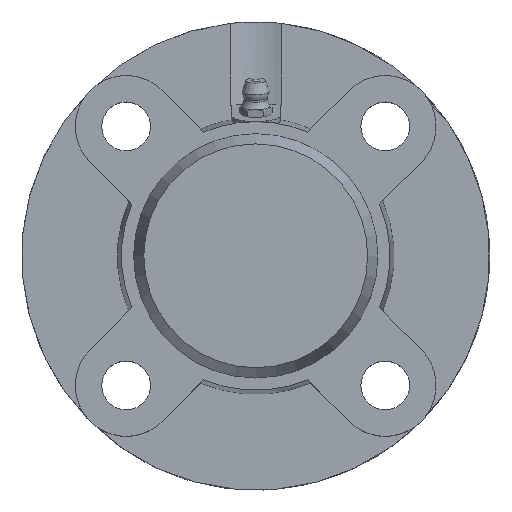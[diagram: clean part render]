
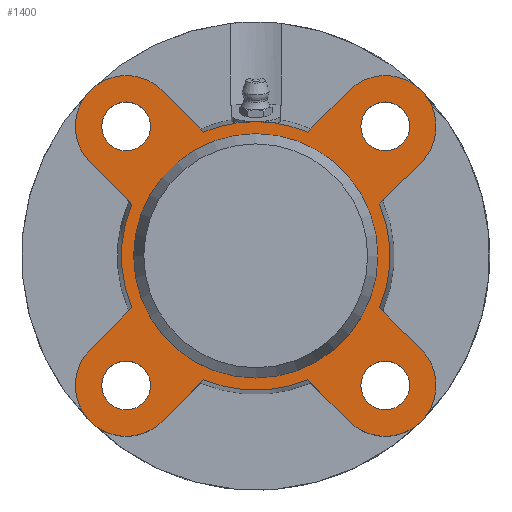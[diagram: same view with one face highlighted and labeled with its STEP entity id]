
A CAD part, top view. The second image highlights one B-rep face of the part: STEP entity #1400.
In plain terms, the highlighted planar face has unit normal (0, 0, 1).
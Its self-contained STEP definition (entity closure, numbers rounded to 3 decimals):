
#140=CARTESIAN_POINT('',(0.0,30.0,15.));
#141=VERTEX_POINT('',#140);
#142=CARTESIAN_POINT('',(0.0,0.,15.));
#143=DIRECTION('',(0.0,0.0,-1.0));
#144=DIRECTION('',(0.0,1.0,0.0));
#145=AXIS2_PLACEMENT_3D('',#142,#143,#144);
#146=CIRCLE('',#145,30.0);
#147=EDGE_CURVE('',#141,#141,#146,.T.);
#277=CARTESIAN_POINT('',(-25.82,-31.82,15.0));
#278=VERTEX_POINT('',#277);
#279=CARTESIAN_POINT('',(-31.82,-31.82,15.0));
#280=DIRECTION('',(0.0,0.0,-1.0));
#281=DIRECTION('',(1.0,0.0,0.0));
#282=AXIS2_PLACEMENT_3D('',#279,#280,#281);
#283=CIRCLE('',#282,6.);
#284=EDGE_CURVE('',#278,#278,#283,.T.);
#305=CARTESIAN_POINT('',(-25.82,31.82,15.));
#306=VERTEX_POINT('',#305);
#307=CARTESIAN_POINT('',(-31.82,31.82,15.));
#308=DIRECTION('',(0.0,0.0,-1.0));
#309=DIRECTION('',(1.0,0.0,0.0));
#310=AXIS2_PLACEMENT_3D('',#307,#308,#309);
#311=CIRCLE('',#310,6.);
#312=EDGE_CURVE('',#306,#306,#311,.T.);
#333=CARTESIAN_POINT('',(37.82,31.82,15.));
#334=VERTEX_POINT('',#333);
#335=CARTESIAN_POINT('',(31.82,31.82,15.));
#336=DIRECTION('',(0.0,0.0,-1.0));
#337=DIRECTION('',(1.0,0.0,0.0));
#338=AXIS2_PLACEMENT_3D('',#335,#336,#337);
#339=CIRCLE('',#338,6.);
#340=EDGE_CURVE('',#334,#334,#339,.T.);
#361=CARTESIAN_POINT('',(37.82,-31.82,15.0));
#362=VERTEX_POINT('',#361);
#363=CARTESIAN_POINT('',(31.82,-31.82,15.0));
#364=DIRECTION('',(0.0,0.0,-1.0));
#365=DIRECTION('',(1.0,0.0,0.0));
#366=AXIS2_PLACEMENT_3D('',#363,#364,#365);
#367=CIRCLE('',#366,6.);
#368=EDGE_CURVE('',#362,#362,#367,.T.);
#698=CARTESIAN_POINT('',(0.,33.,15.));
#699=VERTEX_POINT('',#698);
#856=CARTESIAN_POINT('',(-12.757,30.435,15.));
#857=VERTEX_POINT('',#856);
#871=CARTESIAN_POINT('',(0.0,0.,15.));
#872=DIRECTION('',(0.0,0.0,1.0));
#873=DIRECTION('',(0.0,-1.0,0.0));
#874=AXIS2_PLACEMENT_3D('',#871,#872,#873);
#875=CIRCLE('',#874,33.);
#876=EDGE_CURVE('',#699,#857,#875,.T.);
#886=CARTESIAN_POINT('',(-12.757,-30.435,15.0));
#887=VERTEX_POINT('',#886);
#903=CARTESIAN_POINT('',(-22.981,-40.659,15.));
#904=VERTEX_POINT('',#903);
#905=CARTESIAN_POINT('',(-12.757,-30.435,15.0));
#906=DIRECTION('',(-0.707,-0.707,0.));
#907=VECTOR('',#906,14.459);
#908=LINE('',#905,#907);
#909=EDGE_CURVE('',#887,#904,#908,.T.);
#933=CARTESIAN_POINT('',(-30.435,12.757,15.));
#934=VERTEX_POINT('',#933);
#950=CARTESIAN_POINT('',(-40.659,22.981,15.));
#951=VERTEX_POINT('',#950);
#952=CARTESIAN_POINT('',(-30.435,12.757,15.));
#953=DIRECTION('',(-0.707,0.707,0.));
#954=VECTOR('',#953,14.459);
#955=LINE('',#952,#954);
#956=EDGE_CURVE('',#934,#951,#955,.T.);
#980=CARTESIAN_POINT('',(30.435,-12.757,15.));
#981=VERTEX_POINT('',#980);
#997=CARTESIAN_POINT('',(40.659,-22.981,15.));
#998=VERTEX_POINT('',#997);
#999=CARTESIAN_POINT('',(30.435,-12.757,15.));
#1000=DIRECTION('',(0.707,-0.707,0.));
#1001=VECTOR('',#1000,14.459);
#1002=LINE('',#999,#1001);
#1003=EDGE_CURVE('',#981,#998,#1002,.T.);
#1027=CARTESIAN_POINT('',(12.757,30.435,15.));
#1028=VERTEX_POINT('',#1027);
#1042=CARTESIAN_POINT('',(22.981,40.659,15.));
#1043=VERTEX_POINT('',#1042);
#1044=CARTESIAN_POINT('',(12.757,30.435,15.));
#1045=DIRECTION('',(0.707,0.707,0.));
#1046=VECTOR('',#1045,14.459);
#1047=LINE('',#1044,#1046);
#1048=EDGE_CURVE('',#1028,#1043,#1047,.T.);
#1067=CARTESIAN_POINT('',(30.435,12.757,15.));
#1068=VERTEX_POINT('',#1067);
#1090=CARTESIAN_POINT('',(40.659,22.981,15.));
#1091=VERTEX_POINT('',#1090);
#1098=CARTESIAN_POINT('',(40.659,22.981,15.));
#1099=DIRECTION('',(-0.707,-0.707,0.));
#1100=VECTOR('',#1099,14.459);
#1101=LINE('',#1098,#1100);
#1102=EDGE_CURVE('',#1091,#1068,#1101,.T.);
#1112=CARTESIAN_POINT('',(-40.659,-22.981,15.));
#1113=VERTEX_POINT('',#1112);
#1114=CARTESIAN_POINT('',(-31.82,-31.82,15.));
#1115=DIRECTION('',(0.0,0.0,-1.0));
#1116=DIRECTION('',(-0.707,0.707,0.0));
#1117=AXIS2_PLACEMENT_3D('',#1114,#1115,#1116);
#1118=CIRCLE('',#1117,12.5);
#1119=EDGE_CURVE('',#904,#1113,#1118,.T.);
#1154=CARTESIAN_POINT('',(-30.435,-12.757,15.));
#1155=VERTEX_POINT('',#1154);
#1176=CARTESIAN_POINT('',(-40.659,-22.981,15.));
#1177=DIRECTION('',(0.707,0.707,0.));
#1178=VECTOR('',#1177,14.459);
#1179=LINE('',#1176,#1178);
#1180=EDGE_CURVE('',#1113,#1155,#1179,.T.);
#1190=CARTESIAN_POINT('',(-22.981,40.659,15.));
#1191=VERTEX_POINT('',#1190);
#1192=CARTESIAN_POINT('',(-31.82,31.82,15.));
#1193=DIRECTION('',(0.0,0.0,-1.0));
#1194=DIRECTION('',(0.707,0.707,0.0));
#1195=AXIS2_PLACEMENT_3D('',#1192,#1193,#1194);
#1196=CIRCLE('',#1195,12.5);
#1197=EDGE_CURVE('',#951,#1191,#1196,.T.);
#1225=CARTESIAN_POINT('',(-22.981,40.659,15.));
#1226=DIRECTION('',(0.707,-0.707,0.));
#1227=VECTOR('',#1226,14.459);
#1228=LINE('',#1225,#1227);
#1229=EDGE_CURVE('',#1191,#857,#1228,.T.);
#1239=CARTESIAN_POINT('',(22.981,-40.659,15.));
#1240=VERTEX_POINT('',#1239);
#1241=CARTESIAN_POINT('',(31.82,-31.82,15.));
#1242=DIRECTION('',(0.0,0.0,-1.0));
#1243=DIRECTION('',(-0.707,-0.707,0.0));
#1244=AXIS2_PLACEMENT_3D('',#1241,#1242,#1243);
#1245=CIRCLE('',#1244,12.5);
#1246=EDGE_CURVE('',#998,#1240,#1245,.T.);
#1281=CARTESIAN_POINT('',(12.757,-30.435,15.0));
#1282=VERTEX_POINT('',#1281);
#1303=CARTESIAN_POINT('',(22.981,-40.659,15.));
#1304=DIRECTION('',(-0.707,0.707,0.));
#1305=VECTOR('',#1304,14.459);
#1306=LINE('',#1303,#1305);
#1307=EDGE_CURVE('',#1240,#1282,#1306,.T.);
#1317=CARTESIAN_POINT('',(31.82,31.82,15.));
#1318=DIRECTION('',(0.0,0.0,-1.0));
#1319=DIRECTION('',(0.707,-0.707,0.0));
#1320=AXIS2_PLACEMENT_3D('',#1317,#1318,#1319);
#1321=CIRCLE('',#1320,12.5);
#1322=EDGE_CURVE('',#1043,#1091,#1321,.T.);
#1337=CARTESIAN_POINT('',(0.0,-16.5,15.));
#1338=DIRECTION('',(0.0,0.0,1.0));
#1339=DIRECTION('',(1.0,0.0,0.0));
#1340=AXIS2_PLACEMENT_3D('',#1337,#1338,#1339);
#1341=PLANE('',#1340);
#1342=CARTESIAN_POINT('',(0.0,0.,15.));
#1343=DIRECTION('',(0.0,0.0,1.0));
#1344=DIRECTION('',(0.0,-1.0,0.0));
#1345=AXIS2_PLACEMENT_3D('',#1342,#1343,#1344);
#1346=CIRCLE('',#1345,33.);
#1347=EDGE_CURVE('',#887,#1282,#1346,.T.);
#1348=ORIENTED_EDGE('',*,*,#1347,.T.);
#1349=ORIENTED_EDGE('',*,*,#1307,.F.);
#1350=ORIENTED_EDGE('',*,*,#1246,.F.);
#1351=ORIENTED_EDGE('',*,*,#1003,.F.);
#1352=CARTESIAN_POINT('',(0.0,0.,15.));
#1353=DIRECTION('',(0.0,0.0,1.0));
#1354=DIRECTION('',(0.0,-1.0,0.0));
#1355=AXIS2_PLACEMENT_3D('',#1352,#1353,#1354);
#1356=CIRCLE('',#1355,33.);
#1357=EDGE_CURVE('',#981,#1068,#1356,.T.);
#1358=ORIENTED_EDGE('',*,*,#1357,.T.);
#1359=ORIENTED_EDGE('',*,*,#1102,.F.);
#1360=ORIENTED_EDGE('',*,*,#1322,.F.);
#1361=ORIENTED_EDGE('',*,*,#1048,.F.);
#1362=CARTESIAN_POINT('',(0.0,0.,15.));
#1363=DIRECTION('',(0.0,0.0,1.0));
#1364=DIRECTION('',(0.0,-1.0,0.0));
#1365=AXIS2_PLACEMENT_3D('',#1362,#1363,#1364);
#1366=CIRCLE('',#1365,33.);
#1367=EDGE_CURVE('',#1028,#699,#1366,.T.);
#1368=ORIENTED_EDGE('',*,*,#1367,.T.);
#1369=ORIENTED_EDGE('',*,*,#876,.T.);
#1370=ORIENTED_EDGE('',*,*,#1229,.F.);
#1371=ORIENTED_EDGE('',*,*,#1197,.F.);
#1372=ORIENTED_EDGE('',*,*,#956,.F.);
#1373=CARTESIAN_POINT('',(0.0,0.,15.));
#1374=DIRECTION('',(0.0,0.0,1.0));
#1375=DIRECTION('',(0.0,-1.0,0.0));
#1376=AXIS2_PLACEMENT_3D('',#1373,#1374,#1375);
#1377=CIRCLE('',#1376,33.);
#1378=EDGE_CURVE('',#934,#1155,#1377,.T.);
#1379=ORIENTED_EDGE('',*,*,#1378,.T.);
#1380=ORIENTED_EDGE('',*,*,#1180,.F.);
#1381=ORIENTED_EDGE('',*,*,#1119,.F.);
#1382=ORIENTED_EDGE('',*,*,#909,.F.);
#1383=EDGE_LOOP('',(#1348,#1349,#1350,#1351,#1358,#1359,#1360,#1361,#1368,#1369,#1370,#1371,#1372,#1379,#1380,#1381,#1382));
#1384=FACE_OUTER_BOUND('',#1383,.T.);
#1385=ORIENTED_EDGE('',*,*,#147,.T.);
#1386=EDGE_LOOP('',(#1385));
#1387=FACE_BOUND('',#1386,.T.);
#1388=ORIENTED_EDGE('',*,*,#284,.T.);
#1389=EDGE_LOOP('',(#1388));
#1390=FACE_BOUND('',#1389,.T.);
#1391=ORIENTED_EDGE('',*,*,#312,.T.);
#1392=EDGE_LOOP('',(#1391));
#1393=FACE_BOUND('',#1392,.T.);
#1394=ORIENTED_EDGE('',*,*,#340,.T.);
#1395=EDGE_LOOP('',(#1394));
#1396=FACE_BOUND('',#1395,.T.);
#1397=ORIENTED_EDGE('',*,*,#368,.T.);
#1398=EDGE_LOOP('',(#1397));
#1399=FACE_BOUND('',#1398,.T.);
#1400=ADVANCED_FACE('',(#1384,#1387,#1390,#1393,#1396,#1399),#1341,.T.);
